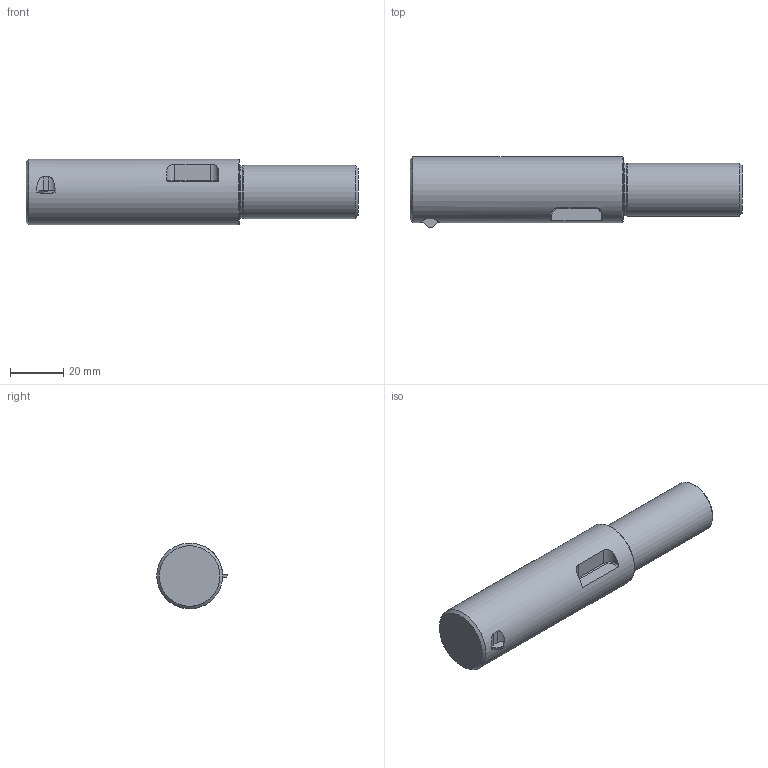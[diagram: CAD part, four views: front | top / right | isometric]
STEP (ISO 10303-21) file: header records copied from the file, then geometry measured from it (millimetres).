
FILE_DESCRIPTION(/* description */ (''),/* implementation_level */ '2;1');
FILE_NAME(/* name */ 'X:\EDF\EDF-OPEN\EDF-865\מודל מעודכן\U Burr NEW\U burr\קבצי STEP\UB3044.stp',/* time_stamp */ '2024-04-04T12:33:33+03:00',/* author */ ('ido'),/* organization */ (''),/* preprocessor_version */ 'ST-DEVELOPER v18.1',/* originating_system */ 'Autodesk Inventor 2022',/* authorisation */ '');
FILE_SCHEMA (('AUTOMOTIVE_DESIGN { 1 0 10303 214 3 1 1 }'));
Length unit declared in the file: millimetre
Products named in the file (1): Ass-Uburr Ø25mm_Simplify_1
Bounding box: 125 x 26.54 x 24.8 mm (x, y, z)
Volume: 52361 mm3; surface area: 10034.8 mm2
Topology: 1 solids, 1 shells, 36 faces, 85 edges, 54 vertices
Faces by surface type: plane 17, cylinder 11, torus 4, cone 4
Full cylindrical faces by diameter (mm): 19.6 x1, 20 x1, 24.8 x1
Entity records: 1179 total; most frequent: CARTESIAN_POINT 238, DIRECTION 189, ORIENTED_EDGE 170, EDGE_CURVE 85, AXIS2_PLACEMENT_3D 73, VERTEX_POINT 54, LINE 43, VECTOR 43
